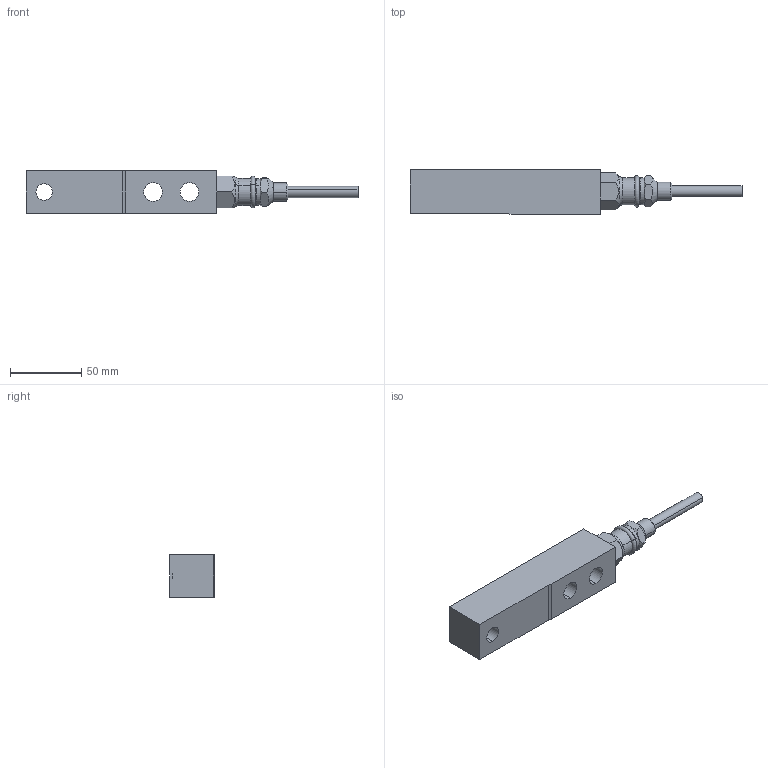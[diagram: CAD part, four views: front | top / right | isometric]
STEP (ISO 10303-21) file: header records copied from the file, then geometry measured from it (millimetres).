
FILE_DESCRIPTION (( 'STEP AP203' ), '1' );
FILE_NAME ('HISBHC14-2.5KLB-5KLB.STEP', '2023-06-30T19:13:37', ( '' ), ( '' ), 'SwSTEP 2.0', 'SolidWorks 2020', '' );
FILE_SCHEMA (( 'CONFIG_CONTROL_DESIGN' ));
Length unit declared in the file: millimetre
Products named in the file (8): Adapter Nut; socket set screw cup point_ai_SSCUPSKT 0.5-20x0.5-HX-C; Hardy Cable Assembly; HISBHC14-2.5KLB-5KLB; Cable Adapter; Cable; SBHC14-2.5KLB-5KLB_BODY
Assembly tree (7 placements, depth 4):
  HISBHC14-2.5KLB-5KLB
    SBHC14-2.5KLB-5KLB_BODY
    Hardy Cable Assembly
      Cable Adapter
      Adapter Nut
        Adapter Nut
        socket set screw cup point_ai_SSCUPSKT 0.5-20x0.5-HX-C
      Cable
Bounding box: 232.22 x 31 x 30 mm (x, y, z)
Volume: 120811.6 mm3; surface area: 29999.5 mm2
Topology: 5 solids, 5 shells, 97 faces, 220 edges, 137 vertices
Faces by surface type: plane 38, cylinder 35, cone 20, torus 4
Entity records: 3844 total; most frequent: CARTESIAN_POINT 790, DIRECTION 492, ORIENTED_EDGE 436, EDGE_CURVE 218, AXIS2_PLACEMENT_3D 193, VERTEX_POINT 137, EDGE_LOOP 113, LINE 106
